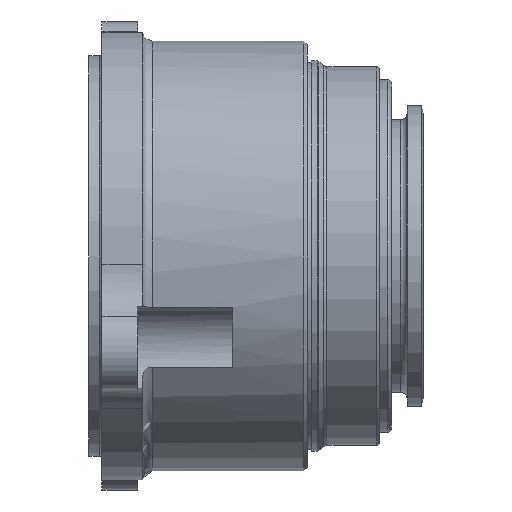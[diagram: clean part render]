
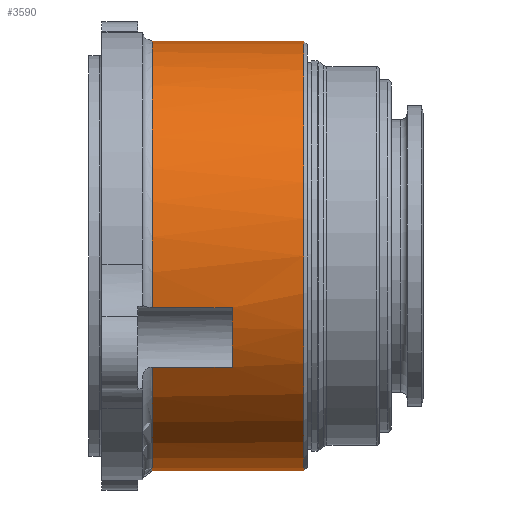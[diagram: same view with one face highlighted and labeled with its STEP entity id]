
A CAD part, left-side view. The second image highlights one B-rep face of the part: STEP entity #3590.
In plain terms, the highlighted cylindrical face has radius 33.528 mm (diameter 67.056 mm), a full revolution.
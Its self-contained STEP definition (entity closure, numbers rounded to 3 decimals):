
#99=LINE('',#5125,#179);
#100=LINE('',#5130,#180);
#101=LINE('',#5134,#181);
#102=LINE('',#5138,#182);
#103=LINE('',#5142,#183);
#104=LINE('',#5146,#184);
#179=VECTOR('',#4340,1000.);
#180=VECTOR('',#4343,1000.);
#181=VECTOR('',#4346,1000.);
#182=VECTOR('',#4349,1000.);
#183=VECTOR('',#4352,1000.);
#184=VECTOR('',#4355,1000.);
#510=ORIENTED_EDGE('',*,*,#1012,.T.);
#511=ORIENTED_EDGE('',*,*,#1013,.F.);
#512=ORIENTED_EDGE('',*,*,#1014,.T.);
#513=ORIENTED_EDGE('',*,*,#1015,.F.);
#514=ORIENTED_EDGE('',*,*,#1016,.T.);
#515=ORIENTED_EDGE('',*,*,#1017,.F.);
#516=ORIENTED_EDGE('',*,*,#1018,.T.);
#517=ORIENTED_EDGE('',*,*,#1019,.F.);
#518=ORIENTED_EDGE('',*,*,#1020,.T.);
#519=ORIENTED_EDGE('',*,*,#1021,.F.);
#520=ORIENTED_EDGE('',*,*,#1022,.T.);
#521=ORIENTED_EDGE('',*,*,#1023,.F.);
#522=ORIENTED_EDGE('',*,*,#1024,.T.);
#1012=EDGE_CURVE('',#1291,#1291,#1497,.T.);
#1013=EDGE_CURVE('',#1292,#1293,#99,.T.);
#1014=EDGE_CURVE('',#1292,#1294,#1498,.T.);
#1015=EDGE_CURVE('',#1295,#1294,#100,.T.);
#1016=EDGE_CURVE('',#1295,#1296,#1499,.T.);
#1017=EDGE_CURVE('',#1297,#1296,#101,.T.);
#1018=EDGE_CURVE('',#1297,#1298,#1500,.T.);
#1019=EDGE_CURVE('',#1299,#1298,#102,.T.);
#1020=EDGE_CURVE('',#1299,#1300,#1501,.T.);
#1021=EDGE_CURVE('',#1301,#1300,#103,.T.);
#1022=EDGE_CURVE('',#1301,#1302,#1502,.T.);
#1023=EDGE_CURVE('',#1303,#1302,#104,.T.);
#1024=EDGE_CURVE('',#1303,#1293,#1503,.T.);
#1291=VERTEX_POINT('',#5124);
#1292=VERTEX_POINT('',#5126);
#1293=VERTEX_POINT('',#5127);
#1294=VERTEX_POINT('',#5129);
#1295=VERTEX_POINT('',#5131);
#1296=VERTEX_POINT('',#5133);
#1297=VERTEX_POINT('',#5135);
#1298=VERTEX_POINT('',#5137);
#1299=VERTEX_POINT('',#5139);
#1300=VERTEX_POINT('',#5141);
#1301=VERTEX_POINT('',#5143);
#1302=VERTEX_POINT('',#5145);
#1303=VERTEX_POINT('',#5147);
#1497=CIRCLE('',#3827,33.528);
#1498=CIRCLE('',#3828,33.528);
#1499=CIRCLE('',#3829,33.528);
#1500=CIRCLE('',#3830,33.528);
#1501=CIRCLE('',#3831,33.528);
#1502=CIRCLE('',#3832,33.528);
#1503=CIRCLE('',#3833,33.528);
#1732=EDGE_LOOP('',(#510));
#1733=EDGE_LOOP('',(#511,#512,#513,#514,#515,#516,#517,#518,#519,#520,#521,
#522));
#2034=FACE_BOUND('',#1732,.T.);
#2035=FACE_BOUND('',#1733,.T.);
#2241=CYLINDRICAL_SURFACE('',#3826,33.528);
#3590=ADVANCED_FACE('',(#2034,#2035),#2241,.T.);
#3826=AXIS2_PLACEMENT_3D('',#5122,#4336,#4337);
#3827=AXIS2_PLACEMENT_3D('',#5123,#4338,#4339);
#3828=AXIS2_PLACEMENT_3D('',#5128,#4341,#4342);
#3829=AXIS2_PLACEMENT_3D('',#5132,#4344,#4345);
#3830=AXIS2_PLACEMENT_3D('',#5136,#4347,#4348);
#3831=AXIS2_PLACEMENT_3D('',#5140,#4350,#4351);
#3832=AXIS2_PLACEMENT_3D('',#5144,#4353,#4354);
#3833=AXIS2_PLACEMENT_3D('',#5148,#4356,#4357);
#4336=DIRECTION('',(0.,1.,0.));
#4337=DIRECTION('',(0.,0.,-1.));
#4338=DIRECTION('',(0.,1.,0.));
#4339=DIRECTION('',(0.,0.,-1.));
#4340=DIRECTION('',(0.,-1.,0.));
#4341=DIRECTION('',(0.,-1.,0.));
#4342=DIRECTION('',(0.,0.,-1.));
#4343=DIRECTION('',(0.,1.,0.));
#4344=DIRECTION('',(0.,-1.,0.));
#4345=DIRECTION('',(0.,0.,1.));
#4346=DIRECTION('',(0.,-1.,0.));
#4347=DIRECTION('',(0.,-1.,0.));
#4348=DIRECTION('',(0.,0.,-1.));
#4349=DIRECTION('',(0.,1.,0.));
#4350=DIRECTION('',(0.,-1.,0.));
#4351=DIRECTION('',(0.,0.,1.));
#4352=DIRECTION('',(0.,-1.,0.));
#4353=DIRECTION('',(0.,-1.,0.));
#4354=DIRECTION('',(0.,0.,-1.));
#4355=DIRECTION('',(0.,1.,0.));
#4356=DIRECTION('',(0.,-1.,0.));
#4357=DIRECTION('',(0.,0.,1.));
#5122=CARTESIAN_POINT('',(0.,-60.008,0.));
#5123=CARTESIAN_POINT('',(0.,3.048,0.));
#5124=CARTESIAN_POINT('',(0.,3.048,-33.528));
#5125=CARTESIAN_POINT('',(16.193,21.209,29.359));
#5126=CARTESIAN_POINT('',(16.193,26.67,29.359));
#5127=CARTESIAN_POINT('',(16.193,14.224,29.359));
#5128=CARTESIAN_POINT('',(0.,26.67,0.));
#5129=CARTESIAN_POINT('',(-32.549,26.67,-8.042));
#5130=CARTESIAN_POINT('',(-32.549,21.209,-8.042));
#5131=CARTESIAN_POINT('',(-32.549,14.224,-8.042));
#5132=CARTESIAN_POINT('',(0.,14.224,0.));
#5133=CARTESIAN_POINT('',(-28.703,14.224,-17.329));
#5134=CARTESIAN_POINT('',(-28.703,21.209,-17.329));
#5135=CARTESIAN_POINT('',(-28.703,26.67,-17.329));
#5136=CARTESIAN_POINT('',(0.,26.67,0.));
#5137=CARTESIAN_POINT('',(16.193,26.67,-29.359));
#5138=CARTESIAN_POINT('',(16.193,21.209,-29.359));
#5139=CARTESIAN_POINT('',(16.193,14.224,-29.359));
#5140=CARTESIAN_POINT('',(0.,14.224,0.));
#5141=CARTESIAN_POINT('',(24.167,14.224,-23.239));
#5142=CARTESIAN_POINT('',(24.167,21.209,-23.239));
#5143=CARTESIAN_POINT('',(24.167,14.529,-23.239));
#5144=CARTESIAN_POINT('',(0.,14.529,0.));
#5145=CARTESIAN_POINT('',(24.167,14.529,23.239));
#5146=CARTESIAN_POINT('',(24.167,21.209,23.239));
#5147=CARTESIAN_POINT('',(24.167,14.224,23.239));
#5148=CARTESIAN_POINT('',(0.,14.224,0.));
